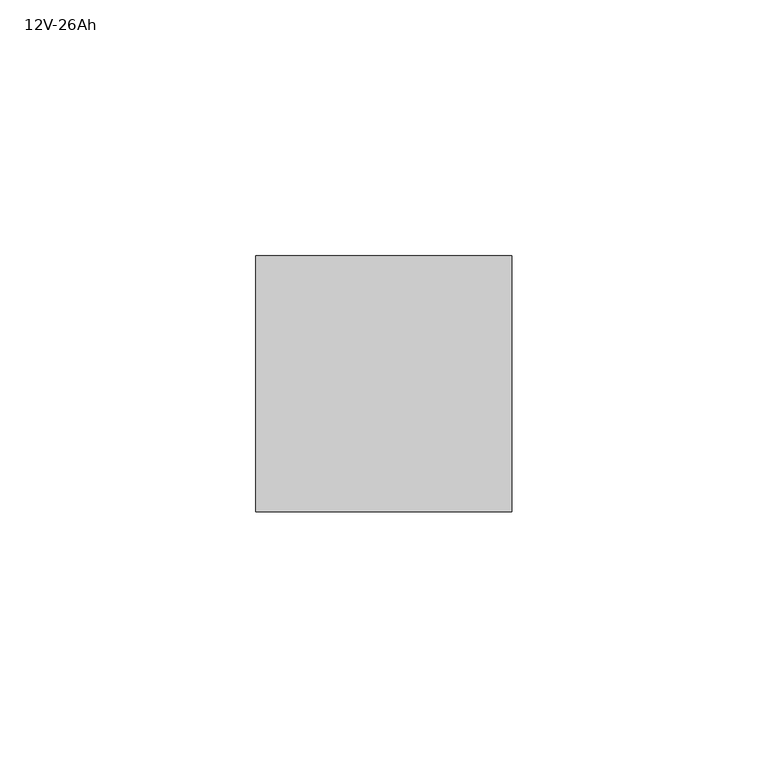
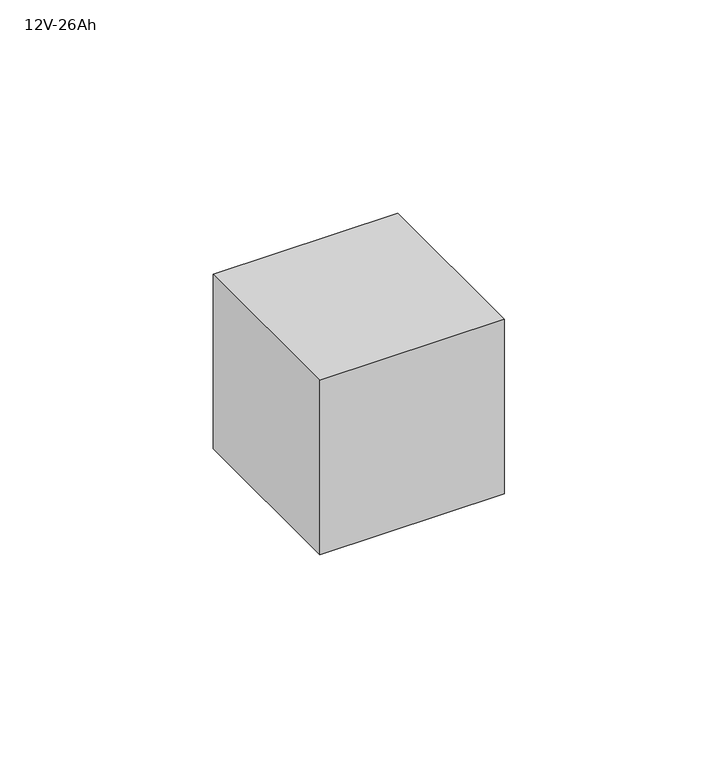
"""IFC4 building model written with IfcOpenShell, lengths in millimetres: alarm geometry, АКБ : 12V-26Ah."""

from ifc_helpers import new_model, si_unit, origin, origin_with_axes, place, context, project, spatial, polyline, outline, extrude, source, transform, mapped, element, save


def alarm_12v_26ah_d63bb5e3(model_context):
    return source(origin(), model_context, "Body", "SweptSolid", [
        extrude(outline(polyline([(25.0, -50.0), (-25.0, -50.0), (-25.0, 0.0), (25.0, 0.0), (25.0, -50.0)])), origin_with_axes(), (0.0, 0.0, 1.0), 50.0),
    ])


if __name__ == "__main__":
    model = new_model("IFC4")
    model_context = context("Model", 3, world=origin())
    ifc_project = project(units=[si_unit("LENGTHUNIT", "METRE", prefix="MILLI")], contexts=[model_context])
    site = spatial("IfcSite", under=ifc_project)
    building = spatial("IfcBuilding", under=site)
    placement = place(None, origin())
    alarm_12v_26ah_shape = alarm_12v_26ah_d63bb5e3(model_context)
    element("IfcAlarm", 1, ObjectType="АКБ : 12V-26Ah", at=placement, inside=building, context=model_context, shape_type="MappedRepresentation", body=[
        mapped(alarm_12v_26ah_shape, transform((0.0, 0.0, 0.0), x_axis=(1.0, 0.0, 0.0), y_axis=(0.0, 1.0, 0.0), z_axis=(0.0, 0.0, 1.0))),
    ])
    save(model, "model.ifc")
